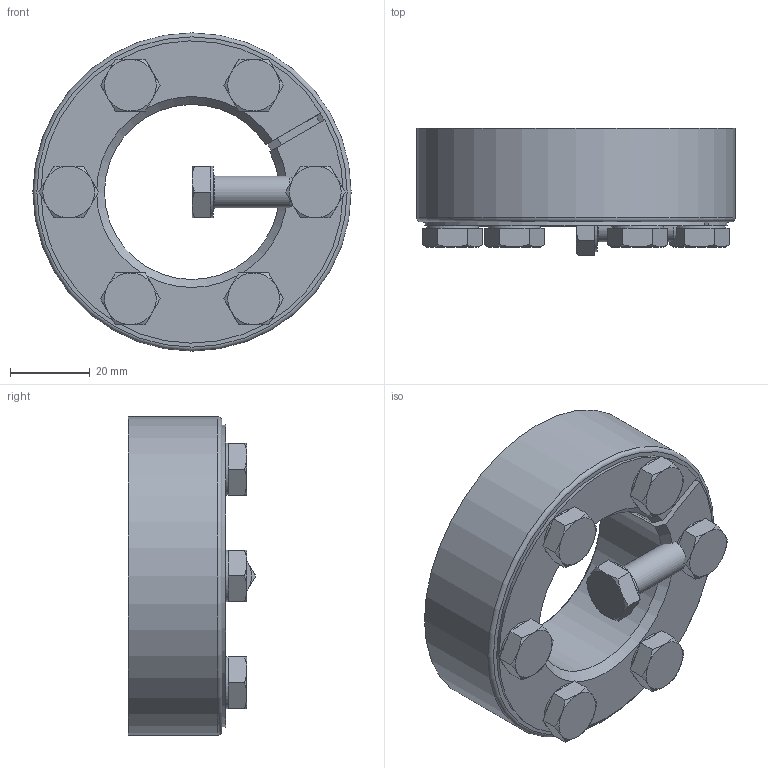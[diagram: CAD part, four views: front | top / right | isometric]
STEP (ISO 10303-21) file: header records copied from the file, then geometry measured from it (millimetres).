
FILE_DESCRIPTION( ( 'Unknown' ), '1' );
FILE_NAME( 'C:/Dokumente und Einstellungen/Sven/Desktop/homepage/cad - homepage/KBS19-1/KBS 19_1 - 44 x 80.stp', 'Unknown', ( 'Unknown' ), ( 'Unknown' ), 'XStep 1.0', 'Unknown', ' ' );
FILE_SCHEMA( ( 'automotive_design' ) );
Length unit declared in the file: millimetre
Products named in the file (3): Assem1; KBS 19_1 - 44 x 80; ISO 4017 - M8 x 20-N
Bounding box: 80 x 32.01 x 80 mm (x, y, z)
Volume: 166983.6 mm3; surface area: 46523.3 mm2
Topology: 9 solids, 9 shells, 217 faces, 486 edges, 294 vertices
Faces by surface type: plane 123, cone 55, cylinder 30, torus 9
Full cylindrical faces by diameter (mm): 8 x19, 13 x7, 80 x2
Entity records: 1570 total; most frequent: CARTESIAN_POINT 269, DIRECTION 224, ORIENTED_EDGE 190, EDGE_CURVE 95, AXIS2_PLACEMENT_3D 93, EDGE_LOOP 73, VERTEX_POINT 66, FACE_OUTER_BOUND 57
